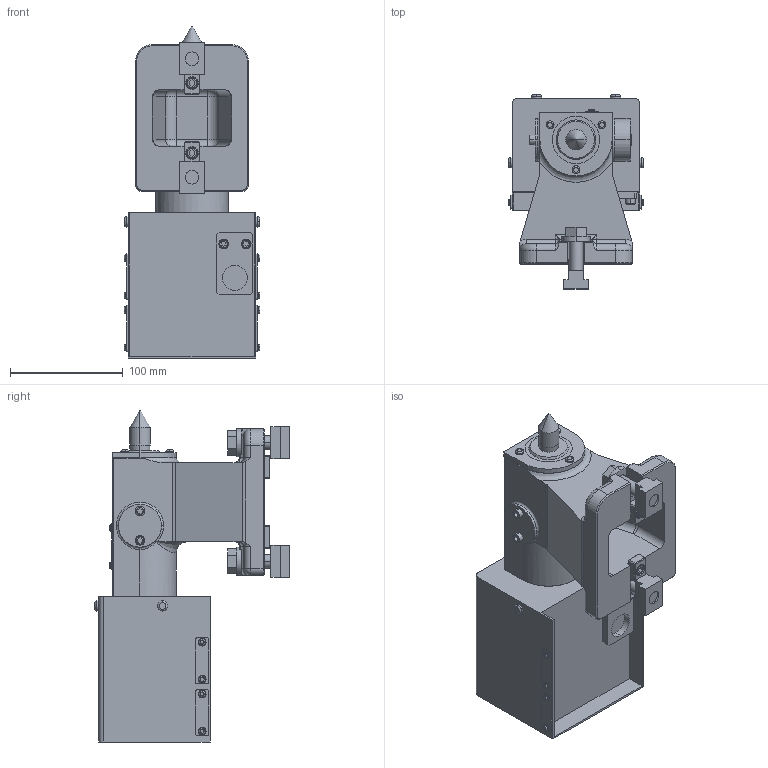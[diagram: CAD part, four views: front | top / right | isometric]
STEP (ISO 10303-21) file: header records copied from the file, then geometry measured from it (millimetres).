
FILE_DESCRIPTION (( 'STEP AP214' ), '1' );
FILE_NAME ('RS100AN.STEP', '2019-11-25T03:58:06', ( '' ), ( '' ), 'SwSTEP 2.0', 'SolidWorks 2017', '' );
FILE_SCHEMA (( 'AUTOMOTIVE_DESIGN' ));
Length unit declared in the file: millimetre
Products named in the file (12): 僇僶乕PAD(61E813118)RS100AN; 客先提出用ロゴ; クランププレート(61E4407141)AN用; カバー(61E440717)MR160RN; センタ(61E4406941)MR160RN; センタソケット(61E376200)RS100LS; シリンダカバー(61E4533262)RS100LSA; ボデー(61E2493780)RS100LAN; RS100AN; CLAMPING PARTS(61E434366)結合; RS100ANホンタイ; ガイドブロック(61M4198752)
Assembly tree (13 placements, depth 3):
  RS100AN
    RS100ANホンタイ
      ボデー(61E2493780)RS100LAN
      シリンダカバー(61E4533262)RS100LSA
      センタソケット(61E376200)RS100LS
      センタ(61E4406941)MR160RN
      カバー(61E440717)MR160RN
      クランププレート(61E4407141)AN用
      客先提出用ロゴ
      僇僶乕PAD(61E813118)RS100AN
      ガイドブロック(61M4198752)  x2
    CLAMPING PARTS(61E434366)結合  x2
Bounding box: 120.2 x 171.9 x 294 mm (x, y, z)
Volume: 2026673.1 mm3; surface area: 245582.8 mm2
Topology: 15 solids, 15 shells, 1907 faces, 5187 edges, 3387 vertices
Faces by surface type: plane 1548, cylinder 236, torus 63, cone 51, bspline 7, sphere 2
Entity records: 63408 total; most frequent: CARTESIAN_POINT 12576, ORIENTED_EDGE 10046, DIRECTION 9229, EDGE_CURVE 5023, LINE 4393, VECTOR 4393, VERTEX_POINT 3289, AXIS2_PLACEMENT_3D 2418
